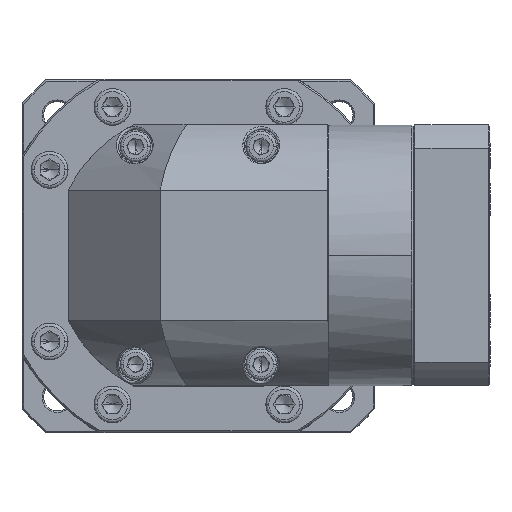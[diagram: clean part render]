
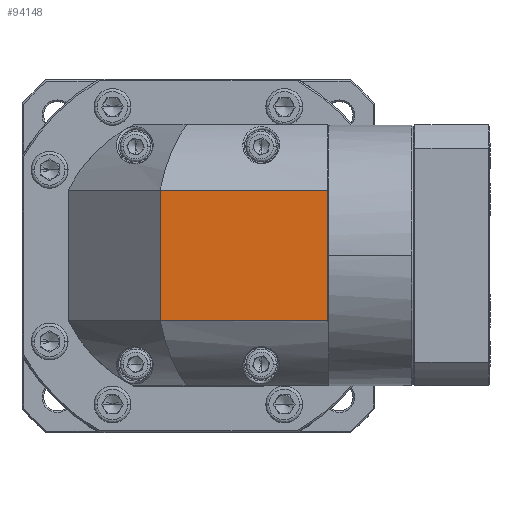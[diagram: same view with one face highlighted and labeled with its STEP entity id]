
A CAD part, top view. The second image highlights one B-rep face of the part: STEP entity #94148.
In plain terms, the highlighted planar face has unit normal (0, 0, 1).
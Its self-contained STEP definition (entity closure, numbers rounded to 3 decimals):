
#1597 = EDGE_CURVE ( 'NONE', #71056, #52825, #91934, .T. ) ;
#2146 = LINE ( 'NONE', #59075, #18217 ) ;
#2381 = DIRECTION ( 'NONE',  ( 0., 0., 1. ) ) ;
#5542 = VECTOR ( 'NONE', #125696, 1000. ) ;
#8918 = EDGE_CURVE ( 'NONE', #52825, #9712, #40737, .T. ) ;
#9712 = VERTEX_POINT ( 'NONE', #93156 ) ;
#10362 = VECTOR ( 'NONE', #94091, 1000. ) ;
#10616 = CARTESIAN_POINT ( 'NONE',  ( 41.475, 56.139, 37.842 ) ) ;
#10993 = LINE ( 'NONE', #136090, #5542 ) ;
#14090 = CARTESIAN_POINT ( 'NONE',  ( -4.025, 56.139, 37.842 ) ) ;
#15295 = FACE_OUTER_BOUND ( 'NONE', #110066, .T. ) ;
#18217 = VECTOR ( 'NONE', #138711, 1000. ) ;
#33890 = ORIENTED_EDGE ( 'NONE', *, *, #1597, .F. ) ;
#40737 = LINE ( 'NONE', #122666, #10362 ) ;
#44600 = ORIENTED_EDGE ( 'NONE', *, *, #8918, .F. ) ;
#47621 = CARTESIAN_POINT ( 'NONE',  ( 95.975, 98.565, 37.842 ) ) ;
#49259 = PLANE ( 'NONE',  #116983 ) ;
#52825 = VERTEX_POINT ( 'NONE', #10616 ) ;
#59075 = CARTESIAN_POINT ( 'NONE',  ( 95.975, 77.352, 37.842 ) ) ;
#67651 = EDGE_CURVE ( 'NONE', #71056, #139153, #2146, .T. ) ;
#70624 = CARTESIAN_POINT ( 'NONE',  ( 53.975, 77.352, 37.842 ) ) ;
#71056 = VERTEX_POINT ( 'NONE', #89987 ) ;
#79438 = VECTOR ( 'NONE', #126701, 1000. ) ;
#89987 = CARTESIAN_POINT ( 'NONE',  ( 95.975, 56.139, 37.842 ) ) ;
#91934 = LINE ( 'NONE', #14090, #79438 ) ;
#93156 = CARTESIAN_POINT ( 'NONE',  ( 41.475, 98.565, 37.842 ) ) ;
#94091 = DIRECTION ( 'NONE',  ( 0., 1., 0. ) ) ;
#94148 = ADVANCED_FACE ( 'NONE', ( #15295 ), #49259, .T. ) ;
#96327 = EDGE_CURVE ( 'NONE', #9712, #139153, #10993, .T. ) ;
#103377 = ORIENTED_EDGE ( 'NONE', *, *, #67651, .T. ) ;
#110066 = EDGE_LOOP ( 'NONE', ( #137882, #44600, #33890, #103377 ) ) ;
#116983 = AXIS2_PLACEMENT_3D ( 'NONE', #70624, #2381, #117931 ) ;
#117931 = DIRECTION ( 'NONE',  ( 1., 0., 0. ) ) ;
#122666 = CARTESIAN_POINT ( 'NONE',  ( 41.475, 77.352, 37.842 ) ) ;
#125696 = DIRECTION ( 'NONE',  ( 1., 0., 0. ) ) ;
#126701 = DIRECTION ( 'NONE',  ( -1., 0., 0. ) ) ;
#136090 = CARTESIAN_POINT ( 'NONE',  ( -4.025, 98.565, 37.842 ) ) ;
#137882 = ORIENTED_EDGE ( 'NONE', *, *, #96327, .F. ) ;
#138711 = DIRECTION ( 'NONE',  ( 0., 1., 0. ) ) ;
#139153 = VERTEX_POINT ( 'NONE', #47621 ) ;
